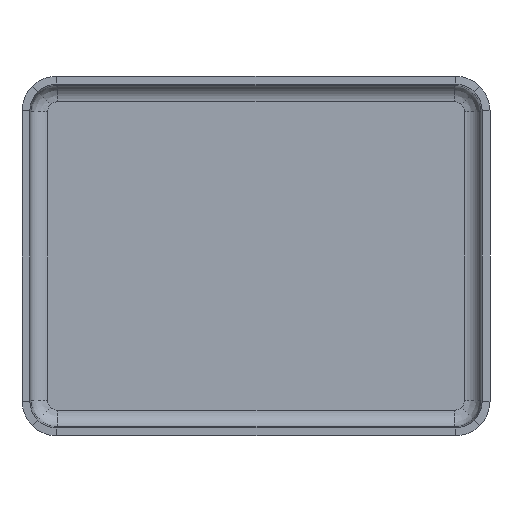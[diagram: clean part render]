
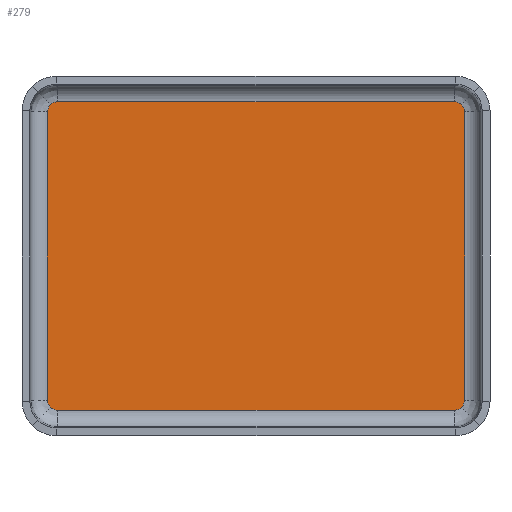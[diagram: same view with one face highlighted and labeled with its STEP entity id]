
A CAD part, front view. The second image highlights one B-rep face of the part: STEP entity #279.
In plain terms, the highlighted planar face has unit normal (0, -1, 0).
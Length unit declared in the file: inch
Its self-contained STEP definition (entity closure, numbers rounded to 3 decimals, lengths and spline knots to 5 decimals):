
#23 = ORIENTED_EDGE ( 'NONE', *, *, #822, .F. ) ;
#31 = VERTEX_POINT ( 'NONE', #852 ) ;
#47 = VECTOR ( 'NONE', #1076, 39.37008 ) ;
#87 = CARTESIAN_POINT ( 'NONE',  ( -5.30342, 1.2, -4.12825 ) ) ;
#114 = ORIENTED_EDGE ( 'NONE', *, *, #509, .F. ) ;
#128 = CARTESIAN_POINT ( 'NONE',  ( 5.57825, 1.2, -3.92732 ) ) ;
#142 = CARTESIAN_POINT ( 'NONE',  ( -5.37732, 1.2, -4.12825 ) ) ;
#166 = LINE ( 'NONE', #1118, #1019 ) ;
#200 = VERTEX_POINT ( 'NONE', #657 ) ;
#273 = VERTEX_POINT ( 'NONE', #2069 ) ;
#279 = ADVANCED_FACE ( 'NONE', ( #309 ), #2075, .F. ) ;
#306 = EDGE_CURVE ( 'NONE', #315, #1512, #1967, .T. ) ;
#309 = FACE_OUTER_BOUND ( 'NONE', #1876, .T. ) ;
#315 = VERTEX_POINT ( 'NONE', #1891 ) ;
#360 = ORIENTED_EDGE ( 'NONE', *, *, #1452, .F. ) ;
#428 = VERTEX_POINT ( 'NONE', #1324 ) ;
#435 = ORIENTED_EDGE ( 'NONE', *, *, #1691, .F. ) ;
#443 =( BOUNDED_CURVE ( )  B_SPLINE_CURVE ( 3, ( #87, #142, #2181, #2178 ),
 .UNSPECIFIED., .F., .F. ) 
 B_SPLINE_CURVE_WITH_KNOTS ( ( 4, 4 ),
 ( 5.4984, 6.28319 ),
 .UNSPECIFIED. ) 
 CURVE ( )  GEOMETRIC_REPRESENTATION_ITEM ( )  RATIONAL_B_SPLINE_CURVE ( ( 1., 0.949, 0.949, 1. ) ) 
 REPRESENTATION_ITEM ( '' )  );
#478 = CARTESIAN_POINT ( 'NONE',  ( 5.49778, 1.2, 4.04778 ) ) ;
#486 = CARTESIAN_POINT ( 'NONE',  ( 5.44556, 1.2, 4.1 ) ) ;
#509 = EDGE_CURVE ( 'NONE', #273, #1040, #1934, .T. ) ;
#513 = EDGE_CURVE ( 'NONE', #2105, #200, #1242, .T. ) ;
#532 = CARTESIAN_POINT ( 'NONE',  ( 5.30342, 1.2, 4.12825 ) ) ;
#586 = VECTOR ( 'NONE', #995, 39.37008 ) ;
#587 = VERTEX_POINT ( 'NONE', #906 ) ;
#610 = CARTESIAN_POINT ( 'NONE',  ( -5.57825, 1.2, -3.85342 ) ) ;
#657 = CARTESIAN_POINT ( 'NONE',  ( -5.57825, 1.2, 3.85342 ) ) ;
#683 = EDGE_CURVE ( 'NONE', #587, #315, #1761, .T. ) ;
#761 = CARTESIAN_POINT ( 'NONE',  ( -5.30342, 1.2, -4.12825 ) ) ;
#797 = ORIENTED_EDGE ( 'NONE', *, *, #513, .F. ) ;
#822 = EDGE_CURVE ( 'NONE', #953, #428, #1777, .T. ) ;
#852 = CARTESIAN_POINT ( 'NONE',  ( -5.49778, 1.2, -4.04778 ) ) ;
#906 = CARTESIAN_POINT ( 'NONE',  ( 5.30342, 1.2, 4.12825 ) ) ;
#933 = CARTESIAN_POINT ( 'NONE',  ( 5.30342, 1.2, -4.12825 ) ) ;
#936 = CARTESIAN_POINT ( 'NONE',  ( 5.37732, 1.2, -4.12825 ) ) ;
#946 = EDGE_CURVE ( 'NONE', #1309, #587, #1907, .T. ) ;
#949 = ORIENTED_EDGE ( 'NONE', *, *, #946, .F. ) ;
#951 = CARTESIAN_POINT ( 'NONE',  ( -5.30342, 1.2, 4.12825 ) ) ;
#953 = VERTEX_POINT ( 'NONE', #2109 ) ;
#955 = CARTESIAN_POINT ( 'NONE',  ( -5.37732, 1.2, 4.12825 ) ) ;
#965 = CARTESIAN_POINT ( 'NONE',  ( -5.49778, 1.2, 4.04778 ) ) ;
#979 = CARTESIAN_POINT ( 'NONE',  ( -5.44556, 1.2, 4.1 ) ) ;
#981 = CARTESIAN_POINT ( 'NONE',  ( 5.49778, 1.2, -4.04778 ) ) ;
#991 = CARTESIAN_POINT ( 'NONE',  ( 5.44556, 1.2, -4.1 ) ) ;
#995 = DIRECTION ( 'NONE',  ( -1., 0., 0. ) ) ;
#1015 = ORIENTED_EDGE ( 'NONE', *, *, #1254, .F. ) ;
#1019 = VECTOR ( 'NONE', #1114, 39.37008 ) ;
#1024 = CARTESIAN_POINT ( 'NONE',  ( -5.57825, 1.2, 4.78 ) ) ;
#1040 = VERTEX_POINT ( 'NONE', #761 ) ;
#1066 = CARTESIAN_POINT ( 'NONE',  ( -6.23, 1.2, -4.12825 ) ) ;
#1076 = DIRECTION ( 'NONE',  ( 0., 0., 1. ) ) ;
#1112 =( BOUNDED_CURVE ( )  B_SPLINE_CURVE ( 3, ( #981, #991, #936, #933 ),
 .UNSPECIFIED., .F., .T. ) 
 B_SPLINE_CURVE_WITH_KNOTS ( ( 4, 4 ),
 ( 0., 0.78479 ),
 .UNSPECIFIED. ) 
 CURVE ( )  GEOMETRIC_REPRESENTATION_ITEM ( )  RATIONAL_B_SPLINE_CURVE ( ( 1., 0.949, 0.949, 1. ) ) 
 REPRESENTATION_ITEM ( '' )  );
#1114 = DIRECTION ( 'NONE',  ( 0., 0., -1. ) ) ;
#1118 = CARTESIAN_POINT ( 'NONE',  ( 5.57825, 1.2, 4.78 ) ) ;
#1188 = ORIENTED_EDGE ( 'NONE', *, *, #683, .F. ) ;
#1202 = EDGE_CURVE ( 'NONE', #1040, #31, #443, .T. ) ;
#1237 = VERTEX_POINT ( 'NONE', #2166 ) ;
#1242 = LINE ( 'NONE', #1024, #47 ) ;
#1254 = EDGE_CURVE ( 'NONE', #200, #1237, #1393, .T. ) ;
#1269 = AXIS2_PLACEMENT_3D ( 'NONE', #2032, #2024, #2019 ) ;
#1309 = VERTEX_POINT ( 'NONE', #2051 ) ;
#1324 = CARTESIAN_POINT ( 'NONE',  ( 5.49778, 1.2, -4.04778 ) ) ;
#1393 =( BOUNDED_CURVE ( )  B_SPLINE_CURVE ( 3, ( #2158, #2163, #2146, #2144 ),
 .UNSPECIFIED., .F., .F. ) 
 B_SPLINE_CURVE_WITH_KNOTS ( ( 4, 4 ),
 ( 5.4984, 6.28319 ),
 .UNSPECIFIED. ) 
 CURVE ( )  GEOMETRIC_REPRESENTATION_ITEM ( )  RATIONAL_B_SPLINE_CURVE ( ( 1., 0.949, 0.949, 1. ) ) 
 REPRESENTATION_ITEM ( '' )  );
#1395 = ORIENTED_EDGE ( 'NONE', *, *, #1851, .F. ) ;
#1452 = EDGE_CURVE ( 'NONE', #31, #2105, #1709, .T. ) ;
#1460 = ORIENTED_EDGE ( 'NONE', *, *, #1854, .F. ) ;
#1512 = VERTEX_POINT ( 'NONE', #1638 ) ;
#1571 = ORIENTED_EDGE ( 'NONE', *, *, #306, .F. ) ;
#1611 = CARTESIAN_POINT ( 'NONE',  ( 5.49778, 1.2, -4.04778 ) ) ;
#1612 = ORIENTED_EDGE ( 'NONE', *, *, #1202, .F. ) ;
#1628 = CARTESIAN_POINT ( 'NONE',  ( 5.55, 1.2, -3.99556 ) ) ;
#1638 = CARTESIAN_POINT ( 'NONE',  ( 5.57825, 1.2, 3.85342 ) ) ;
#1684 = CARTESIAN_POINT ( 'NONE',  ( 5.57825, 1.2, -3.85342 ) ) ;
#1691 = EDGE_CURVE ( 'NONE', #1512, #953, #166, .T. ) ;
#1706 = VECTOR ( 'NONE', #2094, 39.37008 ) ;
#1709 =( BOUNDED_CURVE ( )  B_SPLINE_CURVE ( 3, ( #1790, #1792, #1775, #1773 ),
 .UNSPECIFIED., .F., .T. ) 
 B_SPLINE_CURVE_WITH_KNOTS ( ( 4, 4 ),
 ( 0., 0.78479 ),
 .UNSPECIFIED. ) 
 CURVE ( )  GEOMETRIC_REPRESENTATION_ITEM ( )  RATIONAL_B_SPLINE_CURVE ( ( 1., 0.949, 0.949, 1. ) ) 
 REPRESENTATION_ITEM ( '' )  );
#1761 =( BOUNDED_CURVE ( )  B_SPLINE_CURVE ( 3, ( #532, #1899, #486, #478 ),
 .UNSPECIFIED., .F., .F. ) 
 B_SPLINE_CURVE_WITH_KNOTS ( ( 4, 4 ),
 ( 5.4984, 6.28319 ),
 .UNSPECIFIED. ) 
 CURVE ( )  GEOMETRIC_REPRESENTATION_ITEM ( )  RATIONAL_B_SPLINE_CURVE ( ( 1., 0.949, 0.949, 1. ) ) 
 REPRESENTATION_ITEM ( '' )  );
#1773 = CARTESIAN_POINT ( 'NONE',  ( -5.57825, 1.2, -3.85342 ) ) ;
#1775 = CARTESIAN_POINT ( 'NONE',  ( -5.57825, 1.2, -3.92732 ) ) ;
#1777 =( BOUNDED_CURVE ( )  B_SPLINE_CURVE ( 3, ( #1684, #128, #1628, #1611 ),
 .UNSPECIFIED., .F., .T. ) 
 B_SPLINE_CURVE_WITH_KNOTS ( ( 4, 4 ),
 ( 5.4984, 6.28319 ),
 .UNSPECIFIED. ) 
 CURVE ( )  GEOMETRIC_REPRESENTATION_ITEM ( )  RATIONAL_B_SPLINE_CURVE ( ( 1., 0.949, 0.949, 1. ) ) 
 REPRESENTATION_ITEM ( '' )  );
#1790 = CARTESIAN_POINT ( 'NONE',  ( -5.49778, 1.2, -4.04778 ) ) ;
#1792 = CARTESIAN_POINT ( 'NONE',  ( -5.55, 1.2, -3.99556 ) ) ;
#1851 = EDGE_CURVE ( 'NONE', #1237, #1309, #1877, .T. ) ;
#1854 = EDGE_CURVE ( 'NONE', #428, #273, #1112, .T. ) ;
#1876 = EDGE_LOOP ( 'NONE', ( #435, #1571, #1188, #949, #1395, #1015, #797, #360, #1612, #114, #1460, #23 ) ) ;
#1877 =( BOUNDED_CURVE ( )  B_SPLINE_CURVE ( 3, ( #965, #979, #955, #951 ),
 .UNSPECIFIED., .F., .T. ) 
 B_SPLINE_CURVE_WITH_KNOTS ( ( 4, 4 ),
 ( 0., 0.78479 ),
 .UNSPECIFIED. ) 
 CURVE ( )  GEOMETRIC_REPRESENTATION_ITEM ( )  RATIONAL_B_SPLINE_CURVE ( ( 1., 0.949, 0.949, 1. ) ) 
 REPRESENTATION_ITEM ( '' )  );
#1891 = CARTESIAN_POINT ( 'NONE',  ( 5.49778, 1.2, 4.04778 ) ) ;
#1899 = CARTESIAN_POINT ( 'NONE',  ( 5.37732, 1.2, 4.12825 ) ) ;
#1903 = CARTESIAN_POINT ( 'NONE',  ( 5.57825, 1.2, 3.85342 ) ) ;
#1907 = LINE ( 'NONE', #2161, #1706 ) ;
#1914 = CARTESIAN_POINT ( 'NONE',  ( 5.49778, 1.2, 4.04778 ) ) ;
#1933 = CARTESIAN_POINT ( 'NONE',  ( 5.55, 1.2, 3.99556 ) ) ;
#1934 = LINE ( 'NONE', #1066, #586 ) ;
#1946 = CARTESIAN_POINT ( 'NONE',  ( 5.57825, 1.2, 3.92732 ) ) ;
#1967 =( BOUNDED_CURVE ( )  B_SPLINE_CURVE ( 3, ( #1914, #1933, #1946, #1903 ),
 .UNSPECIFIED., .F., .F. ) 
 B_SPLINE_CURVE_WITH_KNOTS ( ( 4, 4 ),
 ( 0., 0.78479 ),
 .UNSPECIFIED. ) 
 CURVE ( )  GEOMETRIC_REPRESENTATION_ITEM ( )  RATIONAL_B_SPLINE_CURVE ( ( 1., 0.949, 0.949, 1. ) ) 
 REPRESENTATION_ITEM ( '' )  );
#2019 = DIRECTION ( 'NONE',  ( 0., 0., 1. ) ) ;
#2024 = DIRECTION ( 'NONE',  ( 0., 1., 0. ) ) ;
#2032 = CARTESIAN_POINT ( 'NONE',  ( -6.23, 1.2, 4.78 ) ) ;
#2051 = CARTESIAN_POINT ( 'NONE',  ( -5.30342, 1.2, 4.12825 ) ) ;
#2069 = CARTESIAN_POINT ( 'NONE',  ( 5.30342, 1.2, -4.12825 ) ) ;
#2075 = PLANE ( 'NONE',  #1269 ) ;
#2094 = DIRECTION ( 'NONE',  ( 1., 0., 0. ) ) ;
#2105 = VERTEX_POINT ( 'NONE', #610 ) ;
#2109 = CARTESIAN_POINT ( 'NONE',  ( 5.57825, 1.2, -3.85342 ) ) ;
#2144 = CARTESIAN_POINT ( 'NONE',  ( -5.49778, 1.2, 4.04778 ) ) ;
#2146 = CARTESIAN_POINT ( 'NONE',  ( -5.55, 1.2, 3.99556 ) ) ;
#2158 = CARTESIAN_POINT ( 'NONE',  ( -5.57825, 1.2, 3.85342 ) ) ;
#2161 = CARTESIAN_POINT ( 'NONE',  ( -6.23, 1.2, 4.12825 ) ) ;
#2163 = CARTESIAN_POINT ( 'NONE',  ( -5.57825, 1.2, 3.92732 ) ) ;
#2166 = CARTESIAN_POINT ( 'NONE',  ( -5.49778, 1.2, 4.04778 ) ) ;
#2178 = CARTESIAN_POINT ( 'NONE',  ( -5.49778, 1.2, -4.04778 ) ) ;
#2181 = CARTESIAN_POINT ( 'NONE',  ( -5.44556, 1.2, -4.1 ) ) ;
